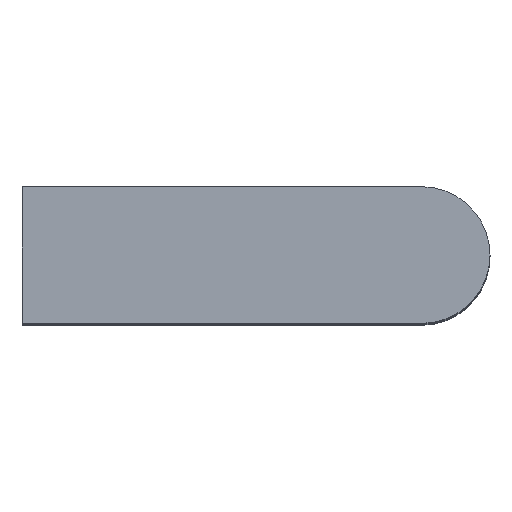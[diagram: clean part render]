
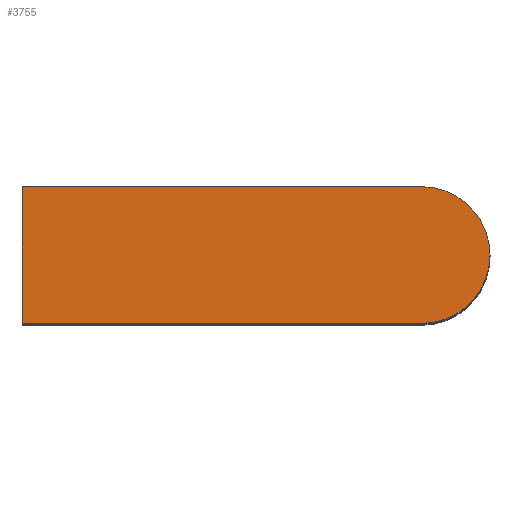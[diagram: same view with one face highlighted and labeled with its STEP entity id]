
A CAD part, top view. The second image highlights one B-rep face of the part: STEP entity #3755.
In plain terms, the highlighted planar face has unit normal (0, 0, 1).
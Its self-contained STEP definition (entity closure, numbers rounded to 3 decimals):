
#3285=CARTESIAN_POINT('Vertex',(55.5,0.,75.9)) ;
#3288=CARTESIAN_POINT('Line Origine',(27.75,0.,75.9)) ;
#3292=CARTESIAN_POINT('Vertex',(0.,0.,75.9)) ;
#3447=CARTESIAN_POINT('Vertex',(0.,19.,75.9)) ;
#3450=CARTESIAN_POINT('Line Origine',(27.75,19.,75.9)) ;
#3454=CARTESIAN_POINT('Vertex',(55.5,19.,75.9)) ;
#3585=CARTESIAN_POINT('Axis2P3D Location',(55.5,9.5,75.9)) ;
#3668=CARTESIAN_POINT('Line Origine',(0.,9.5,75.9)) ;
#3744=CARTESIAN_POINT('Axis2P3D Location',(0.,0.,75.9)) ;
#3289=DIRECTION('Vector Direction',(1.,0.,0.)) ;
#3451=DIRECTION('Vector Direction',(-1.,0.,0.)) ;
#3586=DIRECTION('Axis2P3D Direction',(0.,0.,1.)) ;
#3669=DIRECTION('Vector Direction',(0.,-1.,0.)) ;
#3745=DIRECTION('Axis2P3D Direction',(0.,0.,1.)) ;
#3746=DIRECTION('Axis2P3D XDirection',(1.,0.,0.)) ;
#3587=AXIS2_PLACEMENT_3D('Circle Axis2P3D',#3585,#3586,$) ;
#3747=AXIS2_PLACEMENT_3D('Plane Axis2P3D',#3744,#3745,#3746) ;
#3750=ORIENTED_EDGE('',*,*,#3294,.T.) ;
#3751=ORIENTED_EDGE('',*,*,#3589,.T.) ;
#3752=ORIENTED_EDGE('',*,*,#3456,.T.) ;
#3753=ORIENTED_EDGE('',*,*,#3672,.T.) ;
#3290=VECTOR('Line Direction',#3289,1.) ;
#3452=VECTOR('Line Direction',#3451,1.) ;
#3670=VECTOR('Line Direction',#3669,1.) ;
#3755=ADVANCED_FACE('PartBody',(#3754),#3748,.T.) ;
#3588=CIRCLE('generated circle',#3587,9.5) ;
#3294=EDGE_CURVE('',#3293,#3286,#3291,.T.) ;
#3456=EDGE_CURVE('',#3455,#3448,#3453,.T.) ;
#3589=EDGE_CURVE('',#3286,#3455,#3588,.T.) ;
#3672=EDGE_CURVE('',#3448,#3293,#3671,.T.) ;
#3749=EDGE_LOOP('',(#3750,#3751,#3752,#3753)) ;
#3754=FACE_OUTER_BOUND('',#3749,.T.) ;
#3291=LINE('Line',#3288,#3290) ;
#3453=LINE('Line',#3450,#3452) ;
#3671=LINE('Line',#3668,#3670) ;
#3748=PLANE('',#3747) ;
#3286=VERTEX_POINT('',#3285) ;
#3293=VERTEX_POINT('',#3292) ;
#3448=VERTEX_POINT('',#3447) ;
#3455=VERTEX_POINT('',#3454) ;
